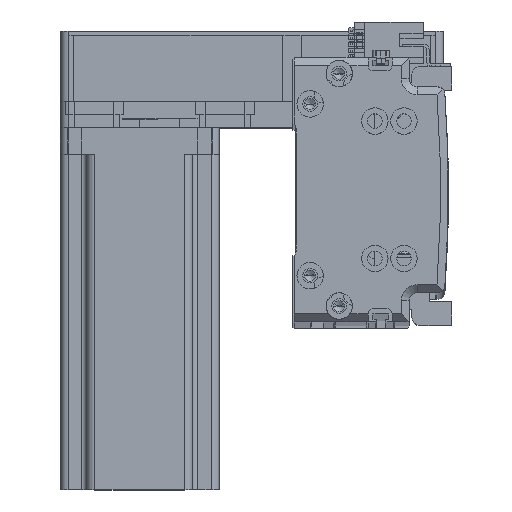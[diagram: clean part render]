
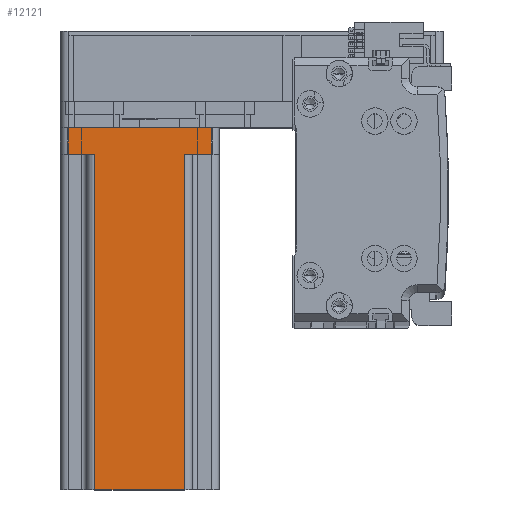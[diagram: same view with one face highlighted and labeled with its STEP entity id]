
A CAD part, top view. The second image highlights one B-rep face of the part: STEP entity #12121.
In plain terms, the highlighted planar face has unit normal (0, 0, 1) as drawn and (0, -1, 0) by its records, which use the part's own axes.
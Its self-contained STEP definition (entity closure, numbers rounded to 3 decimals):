
#17 = DIRECTION ( 'NONE',  ( 0., 0., 1. ) ) ;
#570 = VECTOR ( 'NONE', #57063, 1000. ) ;
#798 = VERTEX_POINT ( 'NONE', #32556 ) ;
#1290 = FACE_OUTER_BOUND ( 'NONE', #30661, .T. ) ;
#1489 = VECTOR ( 'NONE', #57793, 1000. ) ;
#1877 = VECTOR ( 'NONE', #18972, 1000. ) ;
#1988 = LINE ( 'NONE', #20355, #570 ) ;
#5555 = ORIENTED_EDGE ( 'NONE', *, *, #20762, .F. ) ;
#5889 = DIRECTION ( 'NONE',  ( -1., 0., 0. ) ) ;
#7154 = CARTESIAN_POINT ( 'NONE',  ( 17., -30., 137. ) ) ;
#10471 = AXIS2_PLACEMENT_3D ( 'NONE', #20741, #52815, #25327 ) ;
#11883 = CARTESIAN_POINT ( 'NONE',  ( 27., -30., 0. ) ) ;
#12121 = ADVANCED_FACE ( 'NONE', ( #1290 ), #25147, .F. ) ;
#12631 = CARTESIAN_POINT ( 'NONE',  ( 27., -30., 137. ) ) ;
#13824 = CARTESIAN_POINT ( 'NONE',  ( -27., -30., 0. ) ) ;
#15076 = LINE ( 'NONE', #39527, #1489 ) ;
#15507 = LINE ( 'NONE', #46563, #1877 ) ;
#17246 = DIRECTION ( 'NONE',  ( 0., 0., 1. ) ) ;
#18222 = DIRECTION ( 'NONE',  ( 0., 0., -1. ) ) ;
#18401 = VERTEX_POINT ( 'NONE', #13824 ) ;
#18972 = DIRECTION ( 'NONE',  ( 1., 0., 0. ) ) ;
#20355 = CARTESIAN_POINT ( 'NONE',  ( 30., -30., 0. ) ) ;
#20741 = CARTESIAN_POINT ( 'NONE',  ( 30., -30., 137. ) ) ;
#20762 = EDGE_CURVE ( 'NONE', #38634, #33014, #15507, .T. ) ;
#21067 = LINE ( 'NONE', #12631, #30374 ) ;
#21906 = ORIENTED_EDGE ( 'NONE', *, *, #39266, .T. ) ;
#22169 = CARTESIAN_POINT ( 'NONE',  ( -27., -30., 137. ) ) ;
#22756 = VECTOR ( 'NONE', #18222, 1000. ) ;
#23438 = CARTESIAN_POINT ( 'NONE',  ( -27., -30., 10. ) ) ;
#23733 = LINE ( 'NONE', #54928, #42362 ) ;
#24924 = LINE ( 'NONE', #22169, #35696 ) ;
#25147 = PLANE ( 'NONE',  #10471 ) ;
#25327 = DIRECTION ( 'NONE',  ( -1., 0., 0. ) ) ;
#26752 = CARTESIAN_POINT ( 'NONE',  ( -17., -30., 137. ) ) ;
#28118 = VERTEX_POINT ( 'NONE', #42952 ) ;
#28984 = CARTESIAN_POINT ( 'NONE',  ( 20., -30., 10. ) ) ;
#30374 = VECTOR ( 'NONE', #17246, 1000. ) ;
#30661 = EDGE_LOOP ( 'NONE', ( #5555, #21906, #36636, #54239, #31338, #48269, #47438, #49060 ) ) ;
#31338 = ORIENTED_EDGE ( 'NONE', *, *, #34372, .T. ) ;
#32537 = EDGE_CURVE ( 'NONE', #34457, #49698, #21067, .T. ) ;
#32556 = CARTESIAN_POINT ( 'NONE',  ( 17., -30., 10. ) ) ;
#33014 = VERTEX_POINT ( 'NONE', #7154 ) ;
#33425 = EDGE_CURVE ( 'NONE', #49698, #798, #55290, .T. ) ;
#33692 = CARTESIAN_POINT ( 'NONE',  ( 27., -30., 10. ) ) ;
#34372 = EDGE_CURVE ( 'NONE', #18401, #34457, #1988, .T. ) ;
#34457 = VERTEX_POINT ( 'NONE', #11883 ) ;
#34601 = EDGE_CURVE ( 'NONE', #50763, #18401, #24924, .T. ) ;
#35696 = VECTOR ( 'NONE', #58844, 1000. ) ;
#36515 = CARTESIAN_POINT ( 'NONE',  ( -17., -30., 137. ) ) ;
#36636 = ORIENTED_EDGE ( 'NONE', *, *, #58610, .F. ) ;
#38634 = VERTEX_POINT ( 'NONE', #26752 ) ;
#39266 = EDGE_CURVE ( 'NONE', #38634, #28118, #59320, .T. ) ;
#39527 = CARTESIAN_POINT ( 'NONE',  ( -20., -30., 10. ) ) ;
#42362 = VECTOR ( 'NONE', #17, 1000. ) ;
#42952 = CARTESIAN_POINT ( 'NONE',  ( -17., -30., 10. ) ) ;
#44616 = VECTOR ( 'NONE', #5889, 1000. ) ;
#46563 = CARTESIAN_POINT ( 'NONE',  ( 30., -30., 137. ) ) ;
#47438 = ORIENTED_EDGE ( 'NONE', *, *, #33425, .T. ) ;
#48269 = ORIENTED_EDGE ( 'NONE', *, *, #32537, .T. ) ;
#49060 = ORIENTED_EDGE ( 'NONE', *, *, #58856, .T. ) ;
#49698 = VERTEX_POINT ( 'NONE', #33692 ) ;
#50763 = VERTEX_POINT ( 'NONE', #23438 ) ;
#52815 = DIRECTION ( 'NONE',  ( 0., 1., 0. ) ) ;
#54239 = ORIENTED_EDGE ( 'NONE', *, *, #34601, .T. ) ;
#54928 = CARTESIAN_POINT ( 'NONE',  ( 17., -30., 137. ) ) ;
#55290 = LINE ( 'NONE', #28984, #44616 ) ;
#57063 = DIRECTION ( 'NONE',  ( 1., 0., 0. ) ) ;
#57793 = DIRECTION ( 'NONE',  ( 1., 0., 0. ) ) ;
#58610 = EDGE_CURVE ( 'NONE', #50763, #28118, #15076, .T. ) ;
#58844 = DIRECTION ( 'NONE',  ( 0., 0., -1. ) ) ;
#58856 = EDGE_CURVE ( 'NONE', #798, #33014, #23733, .T. ) ;
#59320 = LINE ( 'NONE', #36515, #22756 ) ;
